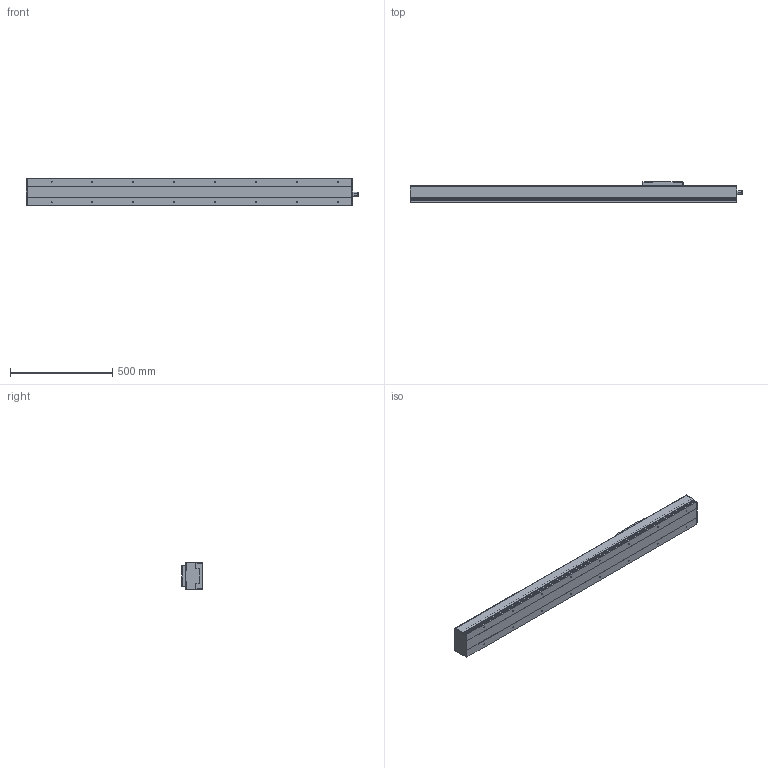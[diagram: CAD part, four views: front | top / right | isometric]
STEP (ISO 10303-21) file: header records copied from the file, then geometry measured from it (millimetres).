
FILE_DESCRIPTION(/* description */ (''),/* implementation_level */ '2;1');
FILE_NAME(/* name */ 'D:\混合母檔20191031\混和母檔\混和母檔\bin\Debug\Download\3D\KS140-10C-1100AFI\KS140-10C-1100AFI.stp',/* time_stamp */ '2019-11-04T15:35:28+08:00',/* author */ ('user'),/* organization */ (''),/* preprocessor_version */ 'ST-DEVELOPER v16.13',/* originating_system */ 'Autodesk Inventor 2018',/* authorisation */ '');
FILE_SCHEMA (('AUTOMOTIVE_DESIGN { 1 0 10303 214 3 1 1 }'));
Length unit declared in the file: millimetre
Products named in the file (3): KS140-10C-1100AFI; KS140-FI-BP; KS140-SL
Assembly tree (2 placements, depth 2):
  KS140-10C-1100AFI
    KS140-FI-BP
    KS140-SL
Bounding box: 1624.5 x 101 x 136 mm (x, y, z)
Volume: 6085131.7 mm3; surface area: 1577583.6 mm2
Topology: 4 solids, 8 shells, 691 faces, 1895 edges, 1243 vertices
Faces by surface type: plane 373, bspline 136, cylinder 84, cone 78, torus 16, sphere 4
Full cylindrical faces by diameter (mm): 3.571 x8, 4 x4, 4.134 x4, 4.3 x4, 4.917 x20, 6 x2, 8 x3, 8.4 x4, 12 x2, 13.1 x1, 15 x1, 18.75 x2, 46 x1, 50 x1
Entity records: 22217 total; most frequent: CARTESIAN_POINT 5941, ORIENTED_EDGE 3476, DIRECTION 2851, EDGE_CURVE 1737, VERTEX_POINT 1192, LINE 1143, VECTOR 1143, AXIS2_PLACEMENT_3D 854
